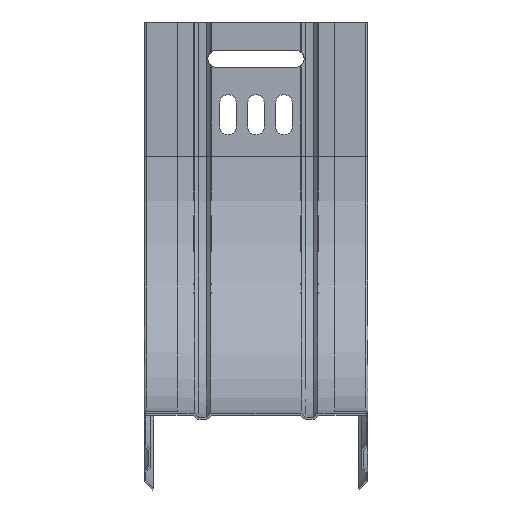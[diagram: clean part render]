
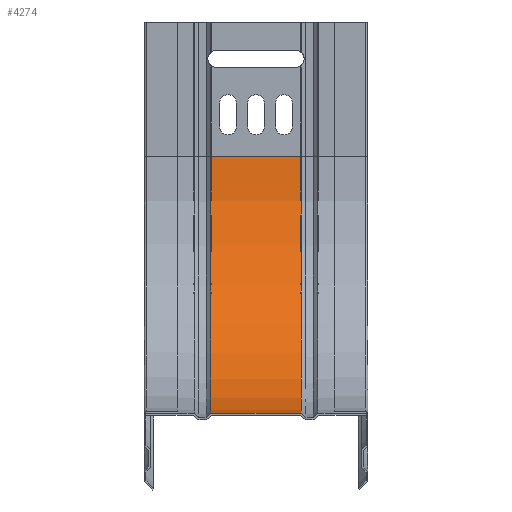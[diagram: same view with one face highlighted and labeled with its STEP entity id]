
A CAD part, front view. The second image highlights one B-rep face of the part: STEP entity #4274.
In plain terms, the highlighted cylindrical face has radius 115 mm (diameter 230 mm), a partial arc.
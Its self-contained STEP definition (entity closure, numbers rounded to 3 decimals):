
#141 = DIRECTION ( 'NONE',  ( 0., 0., 1. ) ) ;
#200 = CIRCLE ( 'NONE', #1287, 115. ) ;
#268 = EDGE_CURVE ( 'NONE', #3514, #3478, #3285, .T. ) ;
#325 = DIRECTION ( 'NONE',  ( -1., 0., 0. ) ) ;
#659 = FACE_OUTER_BOUND ( 'NONE', #2849, .T. ) ;
#685 = CARTESIAN_POINT ( 'NONE',  ( 0., -115., -60. ) ) ;
#1070 = CARTESIAN_POINT ( 'NONE',  ( -20.331, 0., -60. ) ) ;
#1176 = DIRECTION ( 'NONE',  ( -1., 0., 0. ) ) ;
#1226 = EDGE_CURVE ( 'NONE', #3514, #2933, #1618, .T. ) ;
#1264 = DIRECTION ( 'NONE',  ( 0., 0., 1. ) ) ;
#1287 = AXIS2_PLACEMENT_3D ( 'NONE', #4467, #1176, #141 ) ;
#1394 = CYLINDRICAL_SURFACE ( 'NONE', #3460, 115. ) ;
#1618 = LINE ( 'NONE', #1927, #3664 ) ;
#1651 = DIRECTION ( 'NONE',  ( -1., 0., 0. ) ) ;
#1902 = EDGE_CURVE ( 'NONE', #2933, #1955, #200, .T. ) ;
#1927 = CARTESIAN_POINT ( 'NONE',  ( -20.331, 0., -60. ) ) ;
#1955 = VERTEX_POINT ( 'NONE', #4165 ) ;
#2138 = DIRECTION ( 'NONE',  ( 0., 0., 1. ) ) ;
#2483 = CARTESIAN_POINT ( 'NONE',  ( 20.331, 0., -60. ) ) ;
#2532 = EDGE_CURVE ( 'NONE', #3478, #1955, #4370, .T. ) ;
#2559 = ORIENTED_EDGE ( 'NONE', *, *, #268, .T. ) ;
#2726 = ORIENTED_EDGE ( 'NONE', *, *, #1226, .F. ) ;
#2849 = EDGE_LOOP ( 'NONE', ( #2726, #2559, #3732, #3798 ) ) ;
#2933 = VERTEX_POINT ( 'NONE', #2483 ) ;
#3137 = AXIS2_PLACEMENT_3D ( 'NONE', #3461, #1651, #1264 ) ;
#3253 = CARTESIAN_POINT ( 'NONE',  ( -20.331, -115., -175. ) ) ;
#3285 = CIRCLE ( 'NONE', #3137, 115. ) ;
#3460 = AXIS2_PLACEMENT_3D ( 'NONE', #685, #325, #2138 ) ;
#3461 = CARTESIAN_POINT ( 'NONE',  ( -20.331, -115., -60. ) ) ;
#3478 = VERTEX_POINT ( 'NONE', #3889 ) ;
#3514 = VERTEX_POINT ( 'NONE', #1070 ) ;
#3602 = VECTOR ( 'NONE', #4710, 1000. ) ;
#3664 = VECTOR ( 'NONE', #4564, 1000. ) ;
#3732 = ORIENTED_EDGE ( 'NONE', *, *, #2532, .T. ) ;
#3798 = ORIENTED_EDGE ( 'NONE', *, *, #1902, .F. ) ;
#3889 = CARTESIAN_POINT ( 'NONE',  ( -20.331, -115., -175. ) ) ;
#4165 = CARTESIAN_POINT ( 'NONE',  ( 20.331, -115., -175. ) ) ;
#4274 = ADVANCED_FACE ( 'NONE', ( #659 ), #1394, .F. ) ;
#4370 = LINE ( 'NONE', #3253, #3602 ) ;
#4467 = CARTESIAN_POINT ( 'NONE',  ( 20.331, -115., -60. ) ) ;
#4564 = DIRECTION ( 'NONE',  ( 1., 0., 0. ) ) ;
#4710 = DIRECTION ( 'NONE',  ( 1., 0., 0. ) ) ;
